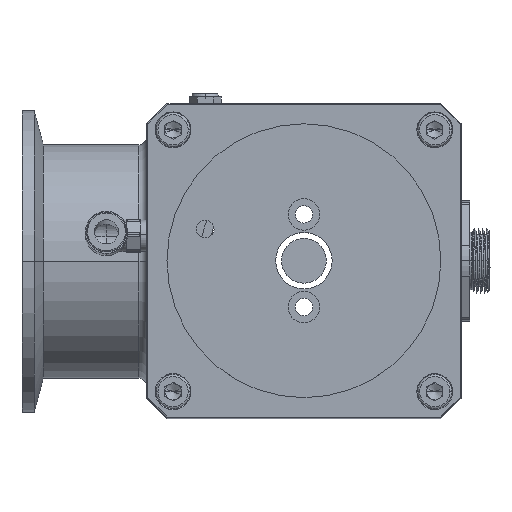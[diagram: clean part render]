
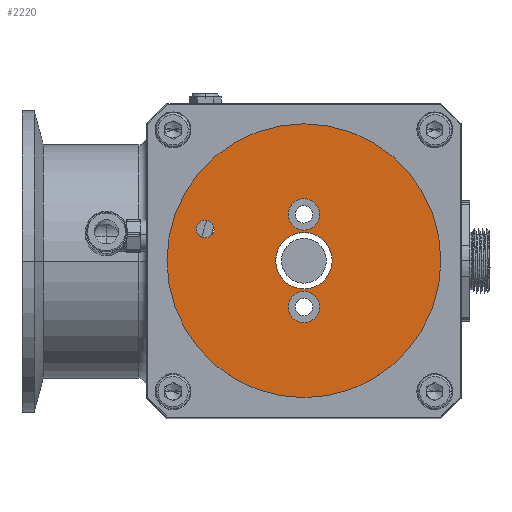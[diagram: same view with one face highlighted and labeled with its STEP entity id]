
A CAD part, top view. The second image highlights one B-rep face of the part: STEP entity #2220.
In plain terms, the highlighted planar face has unit normal (0, 0, 1).
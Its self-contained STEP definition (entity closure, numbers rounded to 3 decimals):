
#242 = FACE_BOUND ( 'NONE', #10146, .T. ) ;
#266 = CARTESIAN_POINT ( 'NONE',  ( 34., 0., 188.8 ) ) ;
#365 = EDGE_CURVE ( 'NONE', #10971, #9160, #10932, .T. ) ;
#471 = VERTEX_POINT ( 'NONE', #5420 ) ;
#605 = DIRECTION ( 'NONE',  ( 0., 0., 1. ) ) ;
#614 = DIRECTION ( 'NONE',  ( 1., 0., 0. ) ) ;
#899 = CIRCLE ( 'NONE', #7287, 3.9 ) ;
#960 = EDGE_CURVE ( 'NONE', #7929, #471, #10090, .T. ) ;
#1076 = AXIS2_PLACEMENT_3D ( 'NONE', #7261, #11757, #4566 ) ;
#1155 = ORIENTED_EDGE ( 'NONE', *, *, #5745, .T. ) ;
#1159 = CIRCLE ( 'NONE', #7455, 3.9 ) ;
#1196 = DIRECTION ( 'NONE',  ( 1., 0., 0. ) ) ;
#1200 = CIRCLE ( 'NONE', #10638, 7. ) ;
#1227 = ORIENTED_EDGE ( 'NONE', *, *, #7263, .F. ) ;
#1281 = PLANE ( 'NONE',  #6464 ) ;
#1452 = CIRCLE ( 'NONE', #3804, 34. ) ;
#1847 = AXIS2_PLACEMENT_3D ( 'NONE', #9171, #4963, #5522 ) ;
#1904 = ORIENTED_EDGE ( 'NONE', *, *, #3571, .F. ) ;
#2186 = DIRECTION ( 'NONE',  ( 0., 0., 1. ) ) ;
#2207 = DIRECTION ( 'NONE',  ( 0., 0., -1. ) ) ;
#2220 = ADVANCED_FACE ( 'NONE', ( #242, #8620, #6910, #11755, #4362 ), #1281, .T. ) ;
#2245 = DIRECTION ( 'NONE',  ( 1., 0., 0. ) ) ;
#2340 = CARTESIAN_POINT ( 'NONE',  ( 0., 11.5, 188.8 ) ) ;
#2499 = AXIS2_PLACEMENT_3D ( 'NONE', #7830, #9591, #614 ) ;
#2545 = CARTESIAN_POINT ( 'NONE',  ( -3.9, -11.5, 188.8 ) ) ;
#2794 = ORIENTED_EDGE ( 'NONE', *, *, #9429, .T. ) ;
#2878 = CARTESIAN_POINT ( 'NONE',  ( 3.9, 11.5, 188.8 ) ) ;
#3091 = CARTESIAN_POINT ( 'NONE',  ( -22.3, 7.85, 188.8 ) ) ;
#3121 = CIRCLE ( 'NONE', #1847, 2.2 ) ;
#3184 = VERTEX_POINT ( 'NONE', #8830 ) ;
#3221 = DIRECTION ( 'NONE',  ( 1., 0., 0. ) ) ;
#3515 = VERTEX_POINT ( 'NONE', #3091 ) ;
#3571 = EDGE_CURVE ( 'NONE', #9822, #3184, #4766, .T. ) ;
#3804 = AXIS2_PLACEMENT_3D ( 'NONE', #8378, #4773, #5728 ) ;
#3922 = ORIENTED_EDGE ( 'NONE', *, *, #960, .T. ) ;
#4108 = EDGE_CURVE ( 'NONE', #3184, #9822, #1200, .T. ) ;
#4247 = CARTESIAN_POINT ( 'NONE',  ( 0., 11.5, 188.8 ) ) ;
#4336 = DIRECTION ( 'NONE',  ( 0., 0., 1. ) ) ;
#4362 = FACE_BOUND ( 'NONE', #5887, .T. ) ;
#4566 = DIRECTION ( 'NONE',  ( 1., 0., 0. ) ) ;
#4766 = CIRCLE ( 'NONE', #7883, 7. ) ;
#4773 = DIRECTION ( 'NONE',  ( 0., 0., 1. ) ) ;
#4963 = DIRECTION ( 'NONE',  ( 0., 0., -1. ) ) ;
#5165 = EDGE_CURVE ( 'NONE', #10620, #7164, #899, .T. ) ;
#5377 = EDGE_LOOP ( 'NONE', ( #1227, #8634 ) ) ;
#5420 = CARTESIAN_POINT ( 'NONE',  ( -34., 0., 188.8 ) ) ;
#5522 = DIRECTION ( 'NONE',  ( 1., 0., 0. ) ) ;
#5728 = DIRECTION ( 'NONE',  ( 1., 0., 0. ) ) ;
#5745 = EDGE_CURVE ( 'NONE', #8924, #3515, #6549, .T. ) ;
#5887 = EDGE_LOOP ( 'NONE', ( #2794, #1155 ) ) ;
#6182 = EDGE_CURVE ( 'NONE', #9160, #10971, #11673, .T. ) ;
#6268 = DIRECTION ( 'NONE',  ( 0., 0., 1. ) ) ;
#6370 = CARTESIAN_POINT ( 'NONE',  ( 7., 0., 188.8 ) ) ;
#6464 = AXIS2_PLACEMENT_3D ( 'NONE', #10339, #2186, #1196 ) ;
#6549 = CIRCLE ( 'NONE', #10059, 2.2 ) ;
#6763 = CARTESIAN_POINT ( 'NONE',  ( -24.5, 7.85, 188.8 ) ) ;
#6910 = FACE_BOUND ( 'NONE', #8181, .T. ) ;
#7022 = EDGE_CURVE ( 'NONE', #471, #7929, #1452, .T. ) ;
#7164 = VERTEX_POINT ( 'NONE', #8700 ) ;
#7172 = DIRECTION ( 'NONE',  ( 1., 0., 0. ) ) ;
#7261 = CARTESIAN_POINT ( 'NONE',  ( 0., 0., 188.8 ) ) ;
#7263 = EDGE_CURVE ( 'NONE', #7164, #10620, #1159, .T. ) ;
#7287 = AXIS2_PLACEMENT_3D ( 'NONE', #2340, #605, #3221 ) ;
#7428 = ORIENTED_EDGE ( 'NONE', *, *, #6182, .F. ) ;
#7445 = AXIS2_PLACEMENT_3D ( 'NONE', #7993, #4336, #10704 ) ;
#7455 = AXIS2_PLACEMENT_3D ( 'NONE', #4247, #9093, #8215 ) ;
#7830 = CARTESIAN_POINT ( 'NONE',  ( 0., -11.5, 188.8 ) ) ;
#7851 = ORIENTED_EDGE ( 'NONE', *, *, #7022, .T. ) ;
#7883 = AXIS2_PLACEMENT_3D ( 'NONE', #9453, #10487, #11403 ) ;
#7888 = ORIENTED_EDGE ( 'NONE', *, *, #365, .F. ) ;
#7929 = VERTEX_POINT ( 'NONE', #266 ) ;
#7993 = CARTESIAN_POINT ( 'NONE',  ( 0., -11.5, 188.8 ) ) ;
#8181 = EDGE_LOOP ( 'NONE', ( #7888, #7428 ) ) ;
#8215 = DIRECTION ( 'NONE',  ( 1., 0., 0. ) ) ;
#8230 = CARTESIAN_POINT ( 'NONE',  ( 3.9, -11.5, 188.8 ) ) ;
#8378 = CARTESIAN_POINT ( 'NONE',  ( 0., 0., 188.8 ) ) ;
#8620 = FACE_BOUND ( 'NONE', #5377, .T. ) ;
#8634 = ORIENTED_EDGE ( 'NONE', *, *, #5165, .F. ) ;
#8700 = CARTESIAN_POINT ( 'NONE',  ( -3.9, 11.5, 188.8 ) ) ;
#8830 = CARTESIAN_POINT ( 'NONE',  ( -7., 0., 188.8 ) ) ;
#8924 = VERTEX_POINT ( 'NONE', #9842 ) ;
#9093 = DIRECTION ( 'NONE',  ( 0., 0., 1. ) ) ;
#9160 = VERTEX_POINT ( 'NONE', #8230 ) ;
#9171 = CARTESIAN_POINT ( 'NONE',  ( -24.5, 7.85, 188.8 ) ) ;
#9258 = ORIENTED_EDGE ( 'NONE', *, *, #4108, .F. ) ;
#9429 = EDGE_CURVE ( 'NONE', #3515, #8924, #3121, .T. ) ;
#9453 = CARTESIAN_POINT ( 'NONE',  ( 0., 0., 188.8 ) ) ;
#9591 = DIRECTION ( 'NONE',  ( 0., 0., 1. ) ) ;
#9736 = EDGE_LOOP ( 'NONE', ( #3922, #7851 ) ) ;
#9822 = VERTEX_POINT ( 'NONE', #6370 ) ;
#9842 = CARTESIAN_POINT ( 'NONE',  ( -26.7, 7.85, 188.8 ) ) ;
#10059 = AXIS2_PLACEMENT_3D ( 'NONE', #6763, #2207, #2245 ) ;
#10090 = CIRCLE ( 'NONE', #1076, 34. ) ;
#10146 = EDGE_LOOP ( 'NONE', ( #9258, #1904 ) ) ;
#10339 = CARTESIAN_POINT ( 'NONE',  ( 0., 0., 188.8 ) ) ;
#10487 = DIRECTION ( 'NONE',  ( 0., 0., 1. ) ) ;
#10620 = VERTEX_POINT ( 'NONE', #2878 ) ;
#10638 = AXIS2_PLACEMENT_3D ( 'NONE', #11709, #6268, #7172 ) ;
#10704 = DIRECTION ( 'NONE',  ( 1., 0., 0. ) ) ;
#10932 = CIRCLE ( 'NONE', #7445, 3.9 ) ;
#10971 = VERTEX_POINT ( 'NONE', #2545 ) ;
#11403 = DIRECTION ( 'NONE',  ( 1., 0., 0. ) ) ;
#11673 = CIRCLE ( 'NONE', #2499, 3.9 ) ;
#11709 = CARTESIAN_POINT ( 'NONE',  ( 0., 0., 188.8 ) ) ;
#11755 = FACE_OUTER_BOUND ( 'NONE', #9736, .T. ) ;
#11757 = DIRECTION ( 'NONE',  ( 0., 0., 1. ) ) ;
